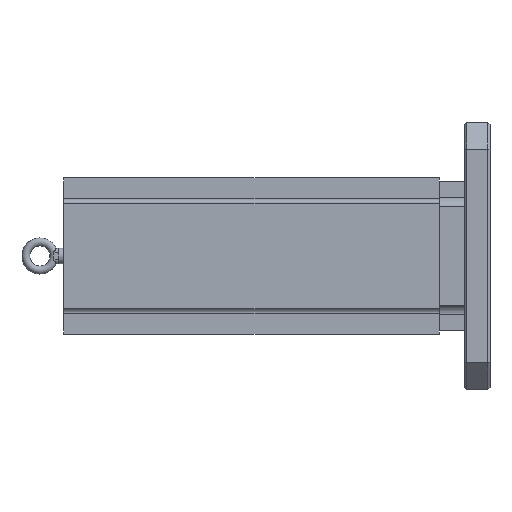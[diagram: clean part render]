
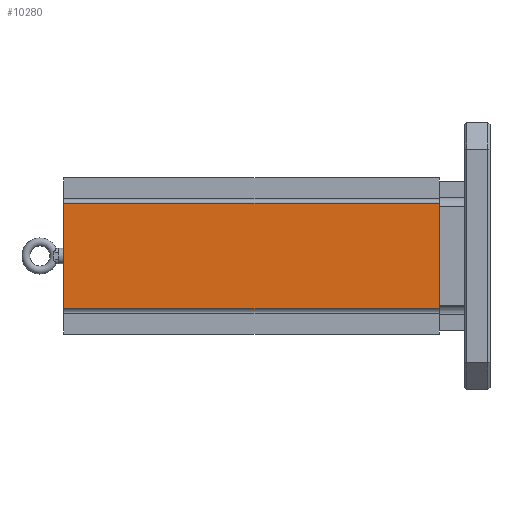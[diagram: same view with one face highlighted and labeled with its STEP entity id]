
A CAD part, left-side view. The second image highlights one B-rep face of the part: STEP entity #10280.
In plain terms, the highlighted planar face has unit normal (-1, 0, 0).
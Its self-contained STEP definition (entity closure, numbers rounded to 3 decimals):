
#166 = VECTOR ( 'NONE', #5080, 1000. ) ;
#451 = VERTEX_POINT ( 'NONE', #6239 ) ;
#465 = EDGE_CURVE ( 'NONE', #3147, #451, #5388, .T. ) ;
#640 = CARTESIAN_POINT ( 'NONE',  ( -116.992, 600., -79.273 ) ) ;
#1641 = DIRECTION ( 'NONE',  ( 0., -1., 0. ) ) ;
#1992 = EDGE_CURVE ( 'NONE', #7605, #451, #9679, .T. ) ;
#2184 = VERTEX_POINT ( 'NONE', #4884 ) ;
#2630 = CARTESIAN_POINT ( 'NONE',  ( -116.992, 38.1, 79.273 ) ) ;
#3147 = VERTEX_POINT ( 'NONE', #640 ) ;
#3371 = DIRECTION ( 'NONE',  ( 0., 0., 1. ) ) ;
#4469 = VECTOR ( 'NONE', #3371, 1000. ) ;
#4481 = DIRECTION ( 'NONE',  ( 0., -1., 0. ) ) ;
#4880 = ORIENTED_EDGE ( 'NONE', *, *, #6349, .F. ) ;
#4884 = CARTESIAN_POINT ( 'NONE',  ( -116.992, 600., 79.273 ) ) ;
#5080 = DIRECTION ( 'NONE',  ( 0., 0., -1. ) ) ;
#5197 = CARTESIAN_POINT ( 'NONE',  ( -116.992, 38.1, -79.273 ) ) ;
#5388 = LINE ( 'NONE', #7942, #7274 ) ;
#6239 = CARTESIAN_POINT ( 'NONE',  ( -116.992, 38.1, -79.273 ) ) ;
#6349 = EDGE_CURVE ( 'NONE', #3147, #2184, #10821, .T. ) ;
#6486 = EDGE_CURVE ( 'NONE', #2184, #7605, #7348, .T. ) ;
#6879 = AXIS2_PLACEMENT_3D ( 'NONE', #7540, #7657, #8626 ) ;
#7274 = VECTOR ( 'NONE', #1641, 1000. ) ;
#7348 = LINE ( 'NONE', #9045, #9329 ) ;
#7540 = CARTESIAN_POINT ( 'NONE',  ( -116.992, 600., -79.273 ) ) ;
#7605 = VERTEX_POINT ( 'NONE', #2630 ) ;
#7657 = DIRECTION ( 'NONE',  ( 1., 0., 0. ) ) ;
#7892 = CARTESIAN_POINT ( 'NONE',  ( -116.992, 600., -79.273 ) ) ;
#7942 = CARTESIAN_POINT ( 'NONE',  ( -116.992, 600., -79.273 ) ) ;
#8332 = FACE_OUTER_BOUND ( 'NONE', #9304, .T. ) ;
#8626 = DIRECTION ( 'NONE',  ( 0., 0., -1. ) ) ;
#8837 = ORIENTED_EDGE ( 'NONE', *, *, #6486, .F. ) ;
#9045 = CARTESIAN_POINT ( 'NONE',  ( -116.992, 600., 79.273 ) ) ;
#9304 = EDGE_LOOP ( 'NONE', ( #10382, #8837, #4880, #10027 ) ) ;
#9329 = VECTOR ( 'NONE', #4481, 1000. ) ;
#9679 = LINE ( 'NONE', #5197, #166 ) ;
#10027 = ORIENTED_EDGE ( 'NONE', *, *, #465, .T. ) ;
#10280 = ADVANCED_FACE ( 'NONE', ( #8332 ), #12053, .F. ) ;
#10382 = ORIENTED_EDGE ( 'NONE', *, *, #1992, .F. ) ;
#10821 = LINE ( 'NONE', #7892, #4469 ) ;
#12053 = PLANE ( 'NONE',  #6879 ) ;
